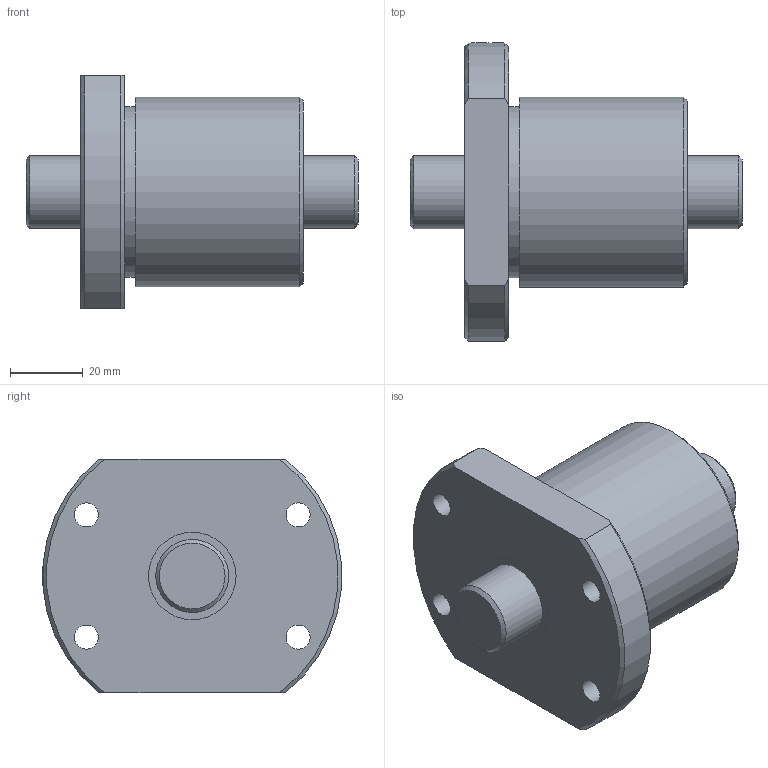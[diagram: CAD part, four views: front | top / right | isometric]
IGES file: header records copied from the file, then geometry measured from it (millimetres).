
Start section: Data from Parasolid IGES Translator 26.0.171, Copyright(c) 2006 Siemens PLM Software. All Rights Reserved.
Global section: file name: BTK2010V-2.6ZZ+91LC7T_000.igs; native system: By Siemens PLM Incorporated; preprocessor: XPlus GENERIC/IGES 26.0.171; author: Noname; organization: Noname; date: 20250116.075716; units: millimetre
Bounding box: 91 x 81.86 x 64 mm (x, y, z)
Surface area: 31409 mm2 (no closed solid volume)
Topology: 0 solids, 0 shells, 31 faces, 142 edges, 129 vertices
Faces by surface type: revolution 21, extrusion 10
